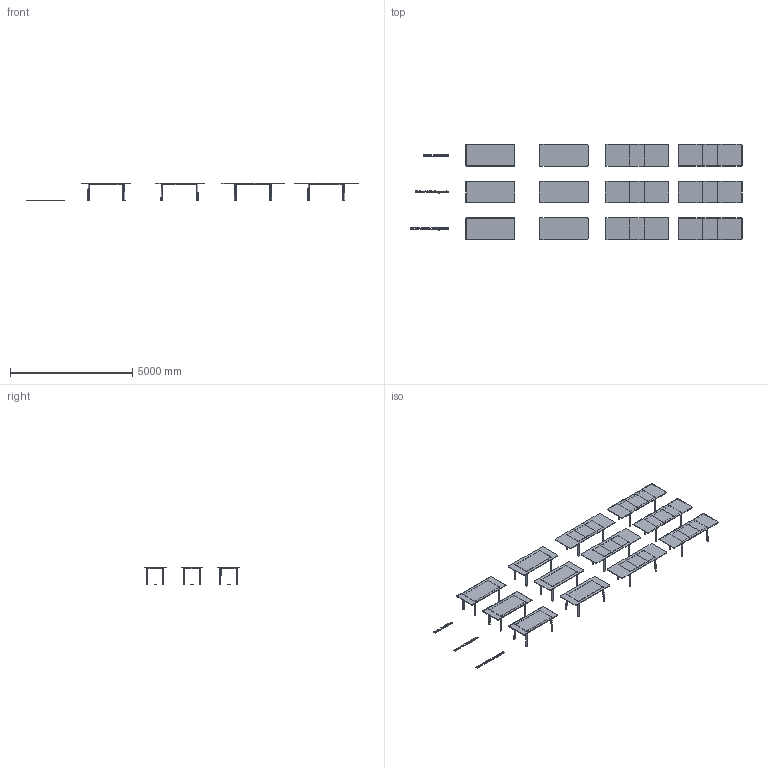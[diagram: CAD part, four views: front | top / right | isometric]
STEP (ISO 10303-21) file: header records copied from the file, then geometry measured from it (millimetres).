
FILE_DESCRIPTION(/* description */ (''),/* implementation_level */ '2;1');
FILE_NAME(/* name */ 'N8_200IZ_',/* time_stamp */ '2025-10-20T18:07:51+02:00',/* author */ (''),/* organization */ (''),/* preprocessor_version */ 'ST-DEVELOPER v16.5',/* originating_system */ 'Rhino 7.38',/* authorisation */ '');
FILE_SCHEMA (('AUTOMOTIVE_DESIGN_CC2'));
Products named in the file (1): Document
Bounding box: 13584.54 x 3900 x 736.03 mm (x, y, z)
Volume: 703249714.1 mm3; surface area: 65079368.7 mm2
Topology: 168 solids, 230 shells, 2354 faces, 6077 edges, 4097 vertices
Faces by surface type: bspline 2354
Entity records: 169977 total; most frequent: CARTESIAN_POINT 89143, B_SPLINE_CURVE_WITH_KNOTS 14307, ORIENTED_EDGE 11290, PCURVE 11290, DEFINITIONAL_REPRESENTATION 11290, SURFACE_CURVE 5866, EDGE_CURVE 5866, VERTEX_POINT 3910
